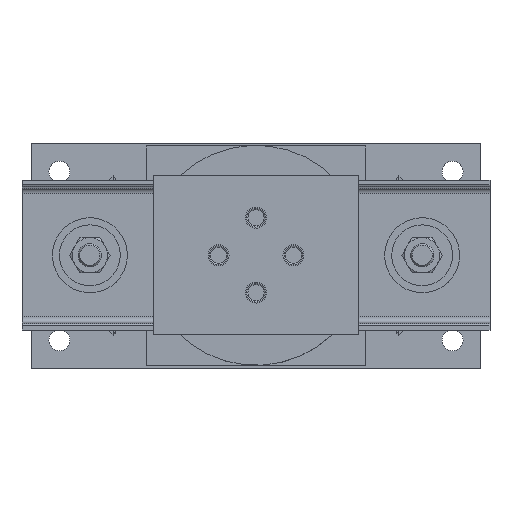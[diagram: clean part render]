
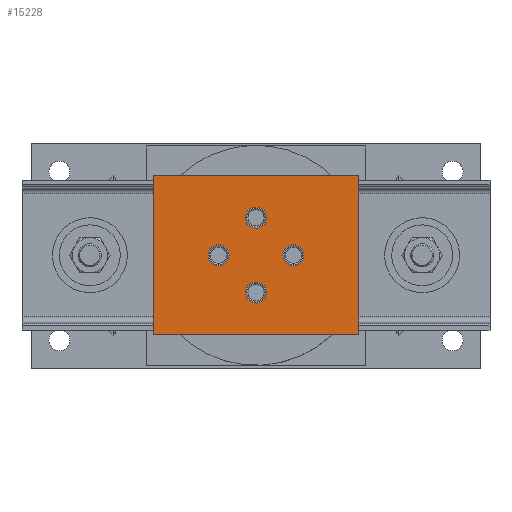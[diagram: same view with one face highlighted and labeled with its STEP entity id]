
A CAD part, top view. The second image highlights one B-rep face of the part: STEP entity #15228.
In plain terms, the highlighted planar face has unit normal (0, 0, 1).
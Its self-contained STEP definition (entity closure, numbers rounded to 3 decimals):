
#55=FACE_BOUND('',#3351,.T.);
#56=FACE_BOUND('',#3352,.T.);
#57=FACE_BOUND('',#3353,.T.);
#58=FACE_BOUND('',#3354,.T.);
#223=PLANE('',#16397);
#2313=FACE_OUTER_BOUND('',#3350,.T.);
#3350=EDGE_LOOP('',(#10775,#10776,#10777,#10778));
#3351=EDGE_LOOP('',(#10779,#10780));
#3352=EDGE_LOOP('',(#10781,#10782));
#3353=EDGE_LOOP('',(#10783,#10784));
#3354=EDGE_LOOP('',(#10785,#10786));
#4499=CIRCLE('',#16398,0.563);
#4500=CIRCLE('',#16399,0.563);
#4501=CIRCLE('',#16400,0.563);
#4502=CIRCLE('',#16401,0.563);
#4503=CIRCLE('',#16402,0.563);
#4504=CIRCLE('',#16403,0.563);
#4505=CIRCLE('',#16404,0.563);
#4506=CIRCLE('',#16405,0.563);
#4998=LINE('',#25865,#5613);
#4999=LINE('',#25867,#5614);
#5000=LINE('',#25869,#5615);
#5001=LINE('',#25870,#5616);
#5613=VECTOR('',#17993,0.394);
#5614=VECTOR('',#17994,0.394);
#5615=VECTOR('',#17995,0.394);
#5616=VECTOR('',#17996,0.394);
#6343=VERTEX_POINT('',#25863);
#6344=VERTEX_POINT('',#25864);
#6345=VERTEX_POINT('',#25866);
#6346=VERTEX_POINT('',#25868);
#6347=VERTEX_POINT('',#25871);
#6348=VERTEX_POINT('',#25872);
#6349=VERTEX_POINT('',#25875);
#6350=VERTEX_POINT('',#25876);
#6351=VERTEX_POINT('',#25879);
#6352=VERTEX_POINT('',#25880);
#6353=VERTEX_POINT('',#25883);
#6354=VERTEX_POINT('',#25884);
#7880=EDGE_CURVE('',#6343,#6344,#4998,.T.);
#7881=EDGE_CURVE('',#6345,#6343,#4999,.T.);
#7882=EDGE_CURVE('',#6346,#6345,#5000,.T.);
#7883=EDGE_CURVE('',#6344,#6346,#5001,.T.);
#7884=EDGE_CURVE('',#6347,#6348,#4499,.T.);
#7885=EDGE_CURVE('',#6348,#6347,#4500,.T.);
#7886=EDGE_CURVE('',#6349,#6350,#4501,.T.);
#7887=EDGE_CURVE('',#6350,#6349,#4502,.T.);
#7888=EDGE_CURVE('',#6351,#6352,#4503,.T.);
#7889=EDGE_CURVE('',#6352,#6351,#4504,.T.);
#7890=EDGE_CURVE('',#6353,#6354,#4505,.T.);
#7891=EDGE_CURVE('',#6354,#6353,#4506,.T.);
#10775=ORIENTED_EDGE('',*,*,#7880,.F.);
#10776=ORIENTED_EDGE('',*,*,#7881,.F.);
#10777=ORIENTED_EDGE('',*,*,#7882,.F.);
#10778=ORIENTED_EDGE('',*,*,#7883,.F.);
#10779=ORIENTED_EDGE('',*,*,#7884,.T.);
#10780=ORIENTED_EDGE('',*,*,#7885,.T.);
#10781=ORIENTED_EDGE('',*,*,#7886,.T.);
#10782=ORIENTED_EDGE('',*,*,#7887,.T.);
#10783=ORIENTED_EDGE('',*,*,#7888,.T.);
#10784=ORIENTED_EDGE('',*,*,#7889,.T.);
#10785=ORIENTED_EDGE('',*,*,#7890,.T.);
#10786=ORIENTED_EDGE('',*,*,#7891,.T.);
#15228=ADVANCED_FACE('',(#2313,#55,#56,#57,#58),#223,.T.);
#16397=AXIS2_PLACEMENT_3D('',#25862,#17991,#17992);
#16398=AXIS2_PLACEMENT_3D('',#25873,#17997,#17998);
#16399=AXIS2_PLACEMENT_3D('',#25874,#17999,#18000);
#16400=AXIS2_PLACEMENT_3D('',#25877,#18001,#18002);
#16401=AXIS2_PLACEMENT_3D('',#25878,#18003,#18004);
#16402=AXIS2_PLACEMENT_3D('',#25881,#18005,#18006);
#16403=AXIS2_PLACEMENT_3D('',#25882,#18007,#18008);
#16404=AXIS2_PLACEMENT_3D('',#25885,#18009,#18010);
#16405=AXIS2_PLACEMENT_3D('',#25886,#18011,#18012);
#17991=DIRECTION('center_axis',(0.,0.,
1.));
#17992=DIRECTION('ref_axis',(-1.,0.,0.));
#17993=DIRECTION('',(0.,1.,0.));
#17994=DIRECTION('',(-1.,0.,0.));
#17995=DIRECTION('',(0.,-1.,0.));
#17996=DIRECTION('',(1.,0.,0.));
#17997=DIRECTION('center_axis',(0.,0.,
-1.));
#17998=DIRECTION('ref_axis',(-1.,0.,0.));
#17999=DIRECTION('center_axis',(0.,0.,
-1.));
#18000=DIRECTION('ref_axis',(-1.,0.,0.));
#18001=DIRECTION('center_axis',(0.,0.,
-1.));
#18002=DIRECTION('ref_axis',(-1.,0.,0.));
#18003=DIRECTION('center_axis',(0.,0.,
-1.));
#18004=DIRECTION('ref_axis',(-1.,0.,0.));
#18005=DIRECTION('center_axis',(0.,0.,
-1.));
#18006=DIRECTION('ref_axis',(-1.,0.,0.));
#18007=DIRECTION('center_axis',(0.,0.,
-1.));
#18008=DIRECTION('ref_axis',(-1.,0.,0.));
#18009=DIRECTION('center_axis',(0.,0.,
-1.));
#18010=DIRECTION('ref_axis',(-1.,0.,0.));
#18011=DIRECTION('center_axis',(0.,0.,
-1.));
#18012=DIRECTION('ref_axis',(-1.,0.,0.));
#25862=CARTESIAN_POINT('Origin',(0.,0.,
25.5));
#25863=CARTESIAN_POINT('',(-5.5,-4.25,25.5));
#25864=CARTESIAN_POINT('',(-5.5,4.25,25.5));
#25865=CARTESIAN_POINT('',(-5.5,-4.25,25.5));
#25866=CARTESIAN_POINT('',(5.5,-4.25,25.5));
#25867=CARTESIAN_POINT('',(5.5,-4.25,25.5));
#25868=CARTESIAN_POINT('',(5.5,4.25,25.5));
#25869=CARTESIAN_POINT('',(5.5,4.25,25.5));
#25870=CARTESIAN_POINT('',(-5.5,4.25,25.5));
#25871=CARTESIAN_POINT('',(-0.563,2.,25.5));
#25872=CARTESIAN_POINT('',(0.562,2.,25.5));
#25873=CARTESIAN_POINT('Origin',(0.,2.,25.5));
#25874=CARTESIAN_POINT('Origin',(0.,2.,25.5));
#25875=CARTESIAN_POINT('',(-2.563,0.,25.5));
#25876=CARTESIAN_POINT('',(-1.438,0.,25.5));
#25877=CARTESIAN_POINT('Origin',(-2.,0.,25.5));
#25878=CARTESIAN_POINT('Origin',(-2.,0.,25.5));
#25879=CARTESIAN_POINT('',(-0.563,-2.,25.5));
#25880=CARTESIAN_POINT('',(0.563,-2.,25.5));
#25881=CARTESIAN_POINT('Origin',(0.,-2.,25.5));
#25882=CARTESIAN_POINT('Origin',(0.,-2.,25.5));
#25883=CARTESIAN_POINT('',(1.438,0.,25.5));
#25884=CARTESIAN_POINT('',(2.563,0.,25.5));
#25885=CARTESIAN_POINT('Origin',(2.,0.,25.5));
#25886=CARTESIAN_POINT('Origin',(2.,0.,25.5));
